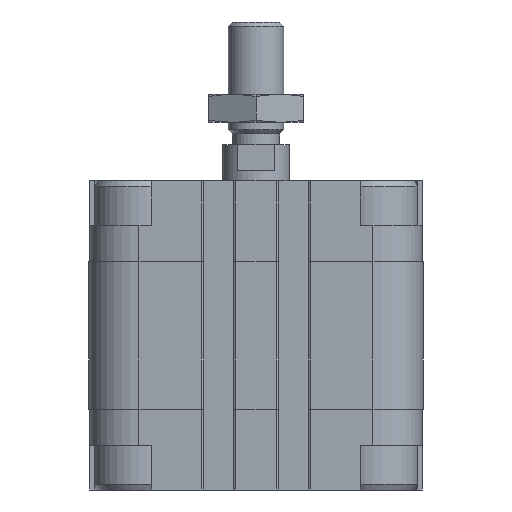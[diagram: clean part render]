
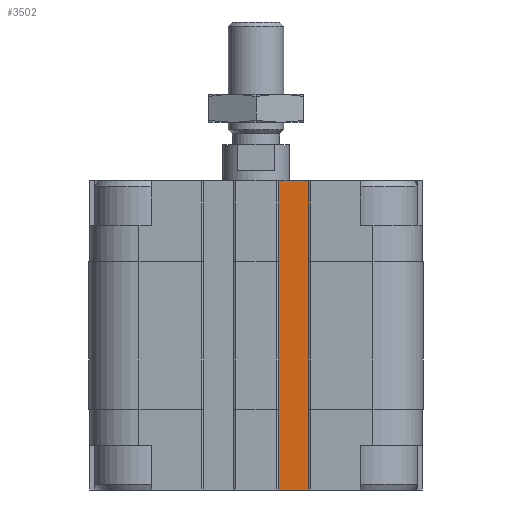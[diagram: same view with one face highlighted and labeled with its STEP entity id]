
A CAD part, front view. The second image highlights one B-rep face of the part: STEP entity #3502.
In plain terms, the highlighted planar face has unit normal (0, -1, 0).
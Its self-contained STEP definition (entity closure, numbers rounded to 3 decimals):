
#162 = AXIS2_PLACEMENT_3D ( 'NONE', #21201, #5303, #3238 ) ;
#531 = EDGE_CURVE ( 'NONE', #1594, #10707, #14666, .T. ) ;
#629 = EDGE_LOOP ( 'NONE', ( #9932, #8595, #10728, #4687 ) ) ;
#761 = VERTEX_POINT ( 'NONE', #10465 ) ;
#1594 = VERTEX_POINT ( 'NONE', #12122 ) ;
#2481 = CARTESIAN_POINT ( 'NONE',  ( 9.75, -25., -14.5 ) ) ;
#3238 = DIRECTION ( 'NONE',  ( -1., 0., 0. ) ) ;
#3502 = ADVANCED_FACE ( 'NONE', ( #13786 ), #19116, .T. ) ;
#3630 = LINE ( 'NONE', #5477, #21184 ) ;
#3832 = LINE ( 'NONE', #6855, #12667 ) ;
#4190 = EDGE_CURVE ( 'NONE', #761, #10707, #4913, .T. ) ;
#4687 = ORIENTED_EDGE ( 'NONE', *, *, #531, .T. ) ;
#4913 = LINE ( 'NONE', #13501, #16451 ) ;
#5075 = CARTESIAN_POINT ( 'NONE',  ( 3.75, -25., -55.5 ) ) ;
#5303 = DIRECTION ( 'NONE',  ( 0., -1., 0. ) ) ;
#5477 = CARTESIAN_POINT ( 'NONE',  ( 3.75, -25., -55.5 ) ) ;
#5610 = DIRECTION ( 'NONE',  ( 0., 0., 1. ) ) ;
#5720 = VECTOR ( 'NONE', #5610, 1000. ) ;
#6855 = CARTESIAN_POINT ( 'NONE',  ( 3.75, -25., -14.5 ) ) ;
#8595 = ORIENTED_EDGE ( 'NONE', *, *, #17263, .F. ) ;
#9932 = ORIENTED_EDGE ( 'NONE', *, *, #4190, .F. ) ;
#10465 = CARTESIAN_POINT ( 'NONE',  ( 3.75, -25., 0. ) ) ;
#10707 = VERTEX_POINT ( 'NONE', #19670 ) ;
#10728 = ORIENTED_EDGE ( 'NONE', *, *, #16842, .T. ) ;
#12122 = CARTESIAN_POINT ( 'NONE',  ( 9.75, -25., -55.5 ) ) ;
#12190 = DIRECTION ( 'NONE',  ( 0., 0., 1. ) ) ;
#12667 = VECTOR ( 'NONE', #12190, 1000. ) ;
#13501 = CARTESIAN_POINT ( 'NONE',  ( 3.75, -25., 0. ) ) ;
#13614 = DIRECTION ( 'NONE',  ( 1., 0., 0. ) ) ;
#13786 = FACE_OUTER_BOUND ( 'NONE', #629, .T. ) ;
#14634 = VERTEX_POINT ( 'NONE', #5075 ) ;
#14666 = LINE ( 'NONE', #2481, #5720 ) ;
#16451 = VECTOR ( 'NONE', #13614, 1000. ) ;
#16842 = EDGE_CURVE ( 'NONE', #14634, #1594, #3630, .T. ) ;
#17263 = EDGE_CURVE ( 'NONE', #14634, #761, #3832, .T. ) ;
#19116 = PLANE ( 'NONE',  #162 ) ;
#19629 = DIRECTION ( 'NONE',  ( 1., 0., 0. ) ) ;
#19670 = CARTESIAN_POINT ( 'NONE',  ( 9.75, -25., 0. ) ) ;
#21184 = VECTOR ( 'NONE', #19629, 1000. ) ;
#21201 = CARTESIAN_POINT ( 'NONE',  ( 3.75, -25., -14.5 ) ) ;
